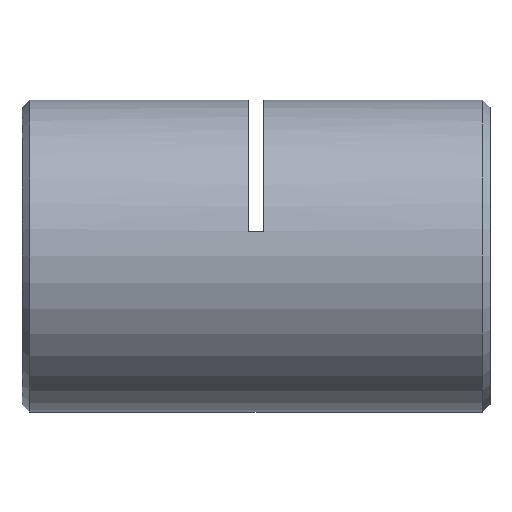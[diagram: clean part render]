
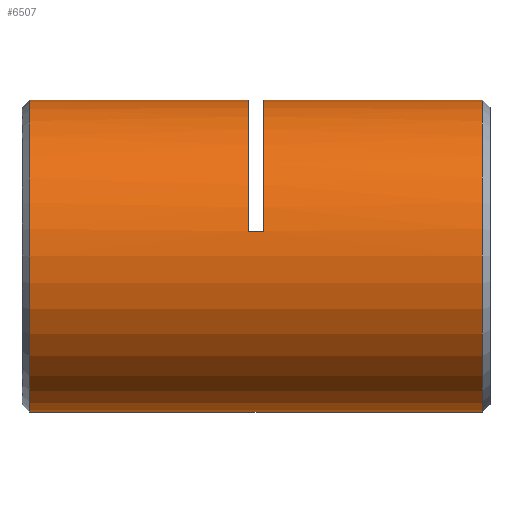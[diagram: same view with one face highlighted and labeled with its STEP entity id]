
A CAD part, left-side view. The second image highlights one B-rep face of the part: STEP entity #6507.
In plain terms, the highlighted cylindrical face has radius 8 mm (diameter 16 mm), a partial arc.
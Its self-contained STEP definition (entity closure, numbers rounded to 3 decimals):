
#1 = DIRECTION ( 'NONE',  ( 0., 0., 1. ) ) ;
#90 = ORIENTED_EDGE ( 'NONE', *, *, #145, .T. ) ;
#119 = CIRCLE ( 'NONE', #5571, 8. ) ;
#122 = DIRECTION ( 'NONE',  ( 0., 1., 0. ) ) ;
#145 = EDGE_CURVE ( 'NONE', #1697, #6658, #2426, .T. ) ;
#250 = ORIENTED_EDGE ( 'NONE', *, *, #1755, .T. ) ;
#280 = CYLINDRICAL_SURFACE ( 'NONE', #3022, 8. ) ;
#293 = CARTESIAN_POINT ( 'NONE',  ( 0., 0.65, 8. ) ) ;
#432 = CIRCLE ( 'NONE', #1244, 8. ) ;
#453 = LINE ( 'NONE', #1647, #6483 ) ;
#577 = CARTESIAN_POINT ( 'NONE',  ( 0., 0.25, 8. ) ) ;
#832 = AXIS2_PLACEMENT_3D ( 'NONE', #1548, #6196, #3075 ) ;
#1113 = DIRECTION ( 'NONE',  ( 0., 0., 1. ) ) ;
#1138 = CARTESIAN_POINT ( 'NONE',  ( 0., 23.85, -8. ) ) ;
#1185 = CARTESIAN_POINT ( 'NONE',  ( 0., 11.85, 0. ) ) ;
#1244 = AXIS2_PLACEMENT_3D ( 'NONE', #5591, #1670, #2611 ) ;
#1372 = ORIENTED_EDGE ( 'NONE', *, *, #5326, .F. ) ;
#1535 = ORIENTED_EDGE ( 'NONE', *, *, #6142, .T. ) ;
#1548 = CARTESIAN_POINT ( 'NONE',  ( 0., 0.65, 0. ) ) ;
#1647 = CARTESIAN_POINT ( 'NONE',  ( 0., 0.25, 8. ) ) ;
#1670 = DIRECTION ( 'NONE',  ( 0., -1., 0. ) ) ;
#1697 = VERTEX_POINT ( 'NONE', #3214 ) ;
#1755 = EDGE_CURVE ( 'NONE', #4591, #5643, #432, .T. ) ;
#1922 = LINE ( 'NONE', #577, #4235 ) ;
#2015 = ORIENTED_EDGE ( 'NONE', *, *, #3291, .F. ) ;
#2053 = CARTESIAN_POINT ( 'NONE',  ( 0., 0.65, -8. ) ) ;
#2132 = EDGE_CURVE ( 'NONE', #3847, #6307, #3045, .T. ) ;
#2222 = DIRECTION ( 'NONE',  ( 0., 0., 1. ) ) ;
#2426 = CIRCLE ( 'NONE', #4634, 8. ) ;
#2511 = CARTESIAN_POINT ( 'NONE',  ( -7.897, 11.85, 1.28 ) ) ;
#2571 = CARTESIAN_POINT ( 'NONE',  ( 0., 23.85, 8. ) ) ;
#2611 = DIRECTION ( 'NONE',  ( 0., 0., -1. ) ) ;
#2695 = EDGE_CURVE ( 'NONE', #6307, #5275, #1922, .T. ) ;
#3022 = AXIS2_PLACEMENT_3D ( 'NONE', #5152, #4531, #1 ) ;
#3045 = CIRCLE ( 'NONE', #832, 8. ) ;
#3075 = DIRECTION ( 'NONE',  ( 0., 0., 1. ) ) ;
#3214 = CARTESIAN_POINT ( 'NONE',  ( -7.897, 12.65, 1.28 ) ) ;
#3291 = EDGE_CURVE ( 'NONE', #3847, #5643, #5041, .T. ) ;
#3462 = ORIENTED_EDGE ( 'NONE', *, *, #4096, .T. ) ;
#3676 = VECTOR ( 'NONE', #6227, 1000. ) ;
#3744 = DIRECTION ( 'NONE',  ( 0., 1., 0. ) ) ;
#3847 = VERTEX_POINT ( 'NONE', #2053 ) ;
#3872 = ORIENTED_EDGE ( 'NONE', *, *, #2132, .T. ) ;
#3932 = ORIENTED_EDGE ( 'NONE', *, *, #2695, .T. ) ;
#4096 = EDGE_CURVE ( 'NONE', #5674, #1697, #6568, .T. ) ;
#4155 = FACE_OUTER_BOUND ( 'NONE', #5983, .T. ) ;
#4208 = CARTESIAN_POINT ( 'NONE',  ( 0., 12.65, 8. ) ) ;
#4235 = VECTOR ( 'NONE', #4644, 1000. ) ;
#4311 = CARTESIAN_POINT ( 'NONE',  ( -7.897, 12.25, 1.28 ) ) ;
#4531 = DIRECTION ( 'NONE',  ( 0., 1., 0. ) ) ;
#4591 = VERTEX_POINT ( 'NONE', #2571 ) ;
#4634 = AXIS2_PLACEMENT_3D ( 'NONE', #5669, #6188, #1113 ) ;
#4644 = DIRECTION ( 'NONE',  ( 0., 1., 0. ) ) ;
#5041 = LINE ( 'NONE', #5220, #3676 ) ;
#5152 = CARTESIAN_POINT ( 'NONE',  ( 0., 0.25, 0. ) ) ;
#5220 = CARTESIAN_POINT ( 'NONE',  ( 0., 0.25, -8. ) ) ;
#5275 = VERTEX_POINT ( 'NONE', #6260 ) ;
#5326 = EDGE_CURVE ( 'NONE', #5674, #5275, #119, .T. ) ;
#5571 = AXIS2_PLACEMENT_3D ( 'NONE', #1185, #5806, #2222 ) ;
#5591 = CARTESIAN_POINT ( 'NONE',  ( 0., 23.85, 0. ) ) ;
#5643 = VERTEX_POINT ( 'NONE', #1138 ) ;
#5669 = CARTESIAN_POINT ( 'NONE',  ( 0., 12.65, 0. ) ) ;
#5674 = VERTEX_POINT ( 'NONE', #2511 ) ;
#5806 = DIRECTION ( 'NONE',  ( 0., 1., 0. ) ) ;
#5856 = VECTOR ( 'NONE', #122, 1000. ) ;
#5983 = EDGE_LOOP ( 'NONE', ( #2015, #3872, #3932, #1372, #3462, #90, #1535, #250 ) ) ;
#6142 = EDGE_CURVE ( 'NONE', #6658, #4591, #453, .T. ) ;
#6188 = DIRECTION ( 'NONE',  ( 0., 1., 0. ) ) ;
#6196 = DIRECTION ( 'NONE',  ( 0., 1., 0. ) ) ;
#6227 = DIRECTION ( 'NONE',  ( 0., 1., 0. ) ) ;
#6260 = CARTESIAN_POINT ( 'NONE',  ( 0., 11.85, 8. ) ) ;
#6307 = VERTEX_POINT ( 'NONE', #293 ) ;
#6483 = VECTOR ( 'NONE', #3744, 1000. ) ;
#6507 = ADVANCED_FACE ( 'NONE', ( #4155 ), #280, .T. ) ;
#6568 = LINE ( 'NONE', #4311, #5856 ) ;
#6658 = VERTEX_POINT ( 'NONE', #4208 ) ;
